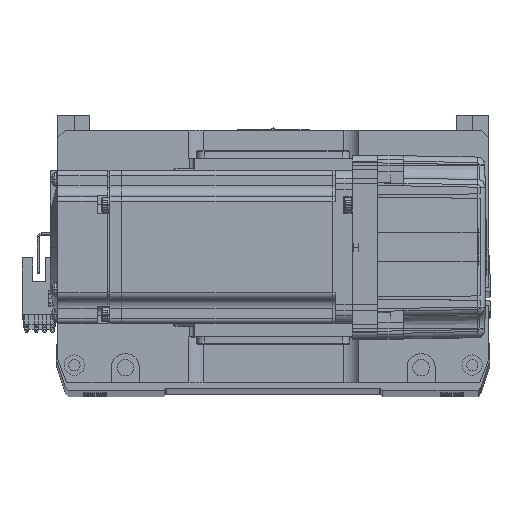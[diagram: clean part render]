
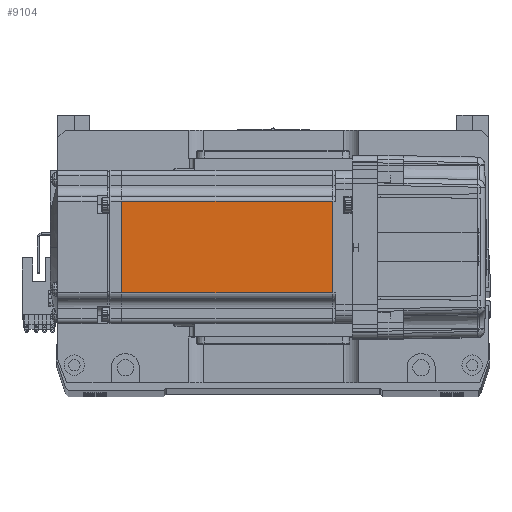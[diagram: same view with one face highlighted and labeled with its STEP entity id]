
A CAD part, top view. The second image highlights one B-rep face of the part: STEP entity #9104.
In plain terms, the highlighted planar face has unit normal (0, 0, 1).
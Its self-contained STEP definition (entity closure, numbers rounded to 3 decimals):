
#7032 = CARTESIAN_POINT ( 'NONE',  ( -7.75, 18., 30. ) ) ;
#7215 = LINE ( 'NONE', #17784, #38383 ) ;
#7310 = LINE ( 'NONE', #48080, #13586 ) ;
#9104 = ADVANCED_FACE ( 'NONE', ( #56644 ), #57735, .T. ) ;
#13586 = VECTOR ( 'NONE', #33182, 1000. ) ;
#14333 = VERTEX_POINT ( 'NONE', #37785 ) ;
#15958 = EDGE_CURVE ( 'NONE', #36644, #29336, #7215, .T. ) ;
#16047 = CARTESIAN_POINT ( 'NONE',  ( -7.75, -18., 30. ) ) ;
#17784 = CARTESIAN_POINT ( 'NONE',  ( -7.75, 0., 30. ) ) ;
#21751 = EDGE_CURVE ( 'NONE', #36644, #26984, #57498, .T. ) ;
#21853 = ORIENTED_EDGE ( 'NONE', *, *, #21751, .T. ) ;
#22558 = AXIS2_PLACEMENT_3D ( 'NONE', #27794, #33649, #32762 ) ;
#26405 = EDGE_LOOP ( 'NONE', ( #43133, #21853, #50091, #55372 ) ) ;
#26984 = VERTEX_POINT ( 'NONE', #32818 ) ;
#27794 = CARTESIAN_POINT ( 'NONE',  ( -6.5, -25., 30. ) ) ;
#28009 = LINE ( 'NONE', #59579, #59315 ) ;
#29336 = VERTEX_POINT ( 'NONE', #16047 ) ;
#32762 = DIRECTION ( 'NONE',  ( 1., 0., 0. ) ) ;
#32818 = CARTESIAN_POINT ( 'NONE',  ( -90.45, 18., 30. ) ) ;
#33182 = DIRECTION ( 'NONE',  ( 0., -1., 0. ) ) ;
#33649 = DIRECTION ( 'NONE',  ( 0., 0., 1. ) ) ;
#34020 = VECTOR ( 'NONE', #60038, 1000. ) ;
#35242 = EDGE_CURVE ( 'NONE', #29336, #14333, #28009, .T. ) ;
#36644 = VERTEX_POINT ( 'NONE', #7032 ) ;
#37785 = CARTESIAN_POINT ( 'NONE',  ( -90.45, -18., 30. ) ) ;
#38383 = VECTOR ( 'NONE', #52669, 1000. ) ;
#38412 = EDGE_CURVE ( 'NONE', #26984, #14333, #7310, .T. ) ;
#43133 = ORIENTED_EDGE ( 'NONE', *, *, #15958, .F. ) ;
#48080 = CARTESIAN_POINT ( 'NONE',  ( -90.45, 0., 30. ) ) ;
#50091 = ORIENTED_EDGE ( 'NONE', *, *, #38412, .T. ) ;
#52669 = DIRECTION ( 'NONE',  ( 0., -1., 0. ) ) ;
#55216 = CARTESIAN_POINT ( 'NONE',  ( -6.5, 18., 30. ) ) ;
#55372 = ORIENTED_EDGE ( 'NONE', *, *, #35242, .F. ) ;
#56644 = FACE_OUTER_BOUND ( 'NONE', #26405, .T. ) ;
#57498 = LINE ( 'NONE', #55216, #34020 ) ;
#57735 = PLANE ( 'NONE',  #22558 ) ;
#59315 = VECTOR ( 'NONE', #64591, 1000. ) ;
#59579 = CARTESIAN_POINT ( 'NONE',  ( -6.5, -18., 30. ) ) ;
#60038 = DIRECTION ( 'NONE',  ( -1., 0., 0. ) ) ;
#64591 = DIRECTION ( 'NONE',  ( -1., 0., 0. ) ) ;
